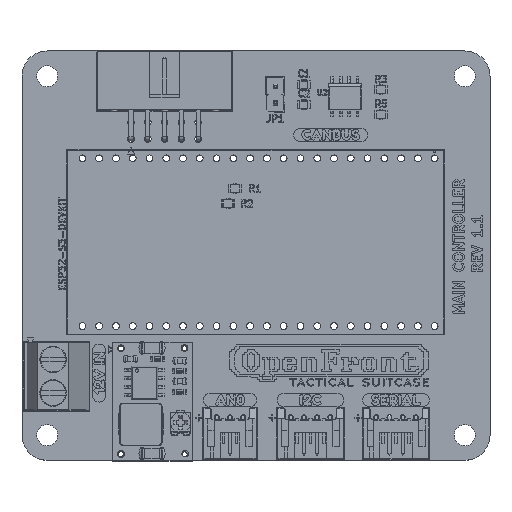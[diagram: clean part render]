
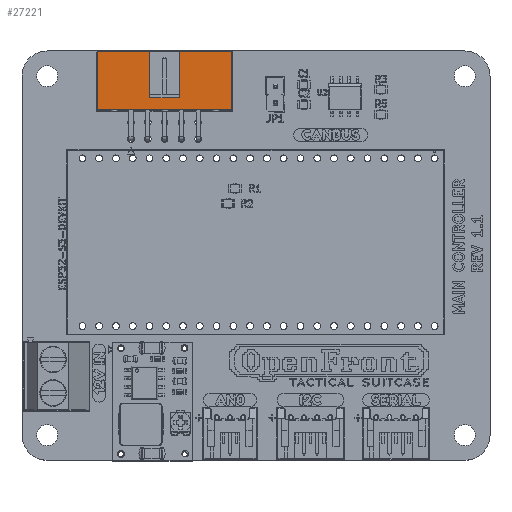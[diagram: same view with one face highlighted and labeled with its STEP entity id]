
A CAD part, top view. The second image highlights one B-rep face of the part: STEP entity #27221.
In plain terms, the highlighted planar face has unit normal (0, 0, 1).
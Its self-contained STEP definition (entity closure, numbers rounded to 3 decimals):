
#27221 = ADVANCED_FACE('',(#27222),#27288,.T.);
#27222 = FACE_BOUND('',#27223,.T.);
#27223 = EDGE_LOOP('',(#27224,#27234,#27242,#27250,#27258,#27266,#27274,
    #27282));
#27224 = ORIENTED_EDGE('',*,*,#27225,.F.);
#27225 = EDGE_CURVE('',#27226,#27228,#27230,.T.);
#27226 = VERTEX_POINT('',#27227);
#27227 = CARTESIAN_POINT('',(4.38,5.1,9.095));
#27228 = VERTEX_POINT('',#27229);
#27229 = CARTESIAN_POINT('',(13.23,5.1,9.095));
#27230 = LINE('',#27231,#27232);
#27231 = CARTESIAN_POINT('',(4.38,5.1,9.095));
#27232 = VECTOR('',#27233,1.);
#27233 = DIRECTION('',(1.,0.,0.));
#27234 = ORIENTED_EDGE('',*,*,#27235,.T.);
#27235 = EDGE_CURVE('',#27226,#27236,#27238,.T.);
#27236 = VERTEX_POINT('',#27237);
#27237 = CARTESIAN_POINT('',(4.38,-15.26,9.095));
#27238 = LINE('',#27239,#27240);
#27239 = CARTESIAN_POINT('',(4.38,5.1,9.095));
#27240 = VECTOR('',#27241,1.);
#27241 = DIRECTION('',(0.,-1.,0.));
#27242 = ORIENTED_EDGE('',*,*,#27243,.T.);
#27243 = EDGE_CURVE('',#27236,#27244,#27246,.T.);
#27244 = VERTEX_POINT('',#27245);
#27245 = CARTESIAN_POINT('',(13.23,-15.26,9.095));
#27246 = LINE('',#27247,#27248);
#27247 = CARTESIAN_POINT('',(6.73,-15.26,9.095));
#27248 = VECTOR('',#27249,1.);
#27249 = DIRECTION('',(1.,0.,0.));
#27250 = ORIENTED_EDGE('',*,*,#27251,.F.);
#27251 = EDGE_CURVE('',#27252,#27244,#27254,.T.);
#27252 = VERTEX_POINT('',#27253);
#27253 = CARTESIAN_POINT('',(13.23,-7.33,9.095));
#27254 = LINE('',#27255,#27256);
#27255 = CARTESIAN_POINT('',(13.23,5.1,9.095));
#27256 = VECTOR('',#27257,1.);
#27257 = DIRECTION('',(0.,-1.,0.));
#27258 = ORIENTED_EDGE('',*,*,#27259,.T.);
#27259 = EDGE_CURVE('',#27252,#27260,#27262,.T.);
#27260 = VERTEX_POINT('',#27261);
#27261 = CARTESIAN_POINT('',(6.23,-7.33,9.095));
#27262 = LINE('',#27263,#27264);
#27263 = CARTESIAN_POINT('',(7.518,-7.33,9.095));
#27264 = VECTOR('',#27265,1.);
#27265 = DIRECTION('',(-1.,0.,0.));
#27266 = ORIENTED_EDGE('',*,*,#27267,.T.);
#27267 = EDGE_CURVE('',#27260,#27268,#27270,.T.);
#27268 = VERTEX_POINT('',#27269);
#27269 = CARTESIAN_POINT('',(6.23,-2.83,9.095));
#27270 = LINE('',#27271,#27272);
#27271 = CARTESIAN_POINT('',(6.23,-5.08,9.095));
#27272 = VECTOR('',#27273,1.);
#27273 = DIRECTION('',(0.,1.,0.));
#27274 = ORIENTED_EDGE('',*,*,#27275,.T.);
#27275 = EDGE_CURVE('',#27268,#27276,#27278,.T.);
#27276 = VERTEX_POINT('',#27277);
#27277 = CARTESIAN_POINT('',(13.23,-2.83,9.095));
#27278 = LINE('',#27279,#27280);
#27279 = CARTESIAN_POINT('',(7.518,-2.83,9.095));
#27280 = VECTOR('',#27281,1.);
#27281 = DIRECTION('',(1.,0.,0.));
#27282 = ORIENTED_EDGE('',*,*,#27283,.F.);
#27283 = EDGE_CURVE('',#27228,#27276,#27284,.T.);
#27284 = LINE('',#27285,#27286);
#27285 = CARTESIAN_POINT('',(13.23,5.1,9.095));
#27286 = VECTOR('',#27287,1.);
#27287 = DIRECTION('',(0.,-1.,0.));
#27288 = PLANE('',#27289);
#27289 = AXIS2_PLACEMENT_3D('',#27290,#27291,#27292);
#27290 = CARTESIAN_POINT('',(8.805,-5.08,9.095));
#27291 = DIRECTION('',(0.,-0.,1.));
#27292 = DIRECTION('',(-1.,0.,0.));
